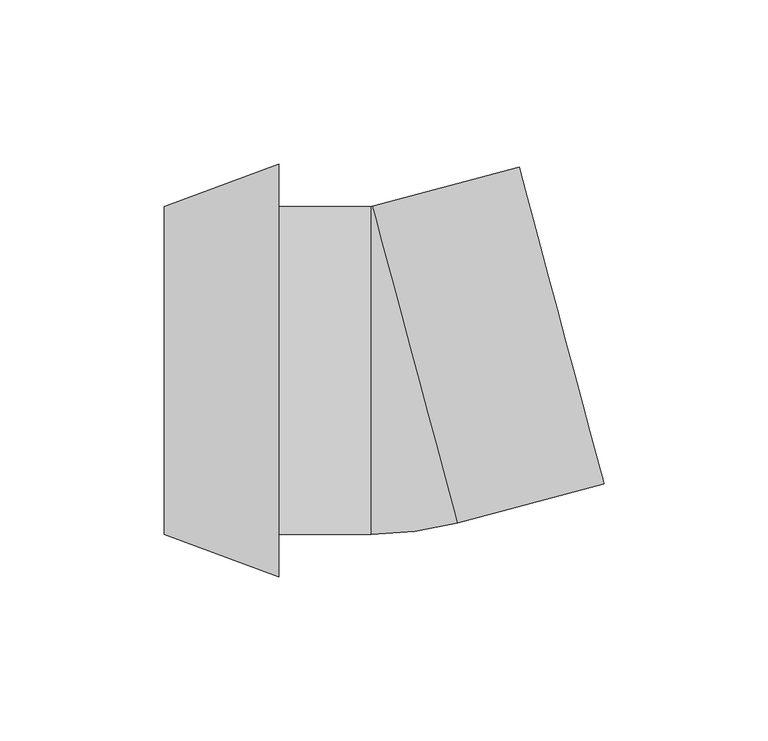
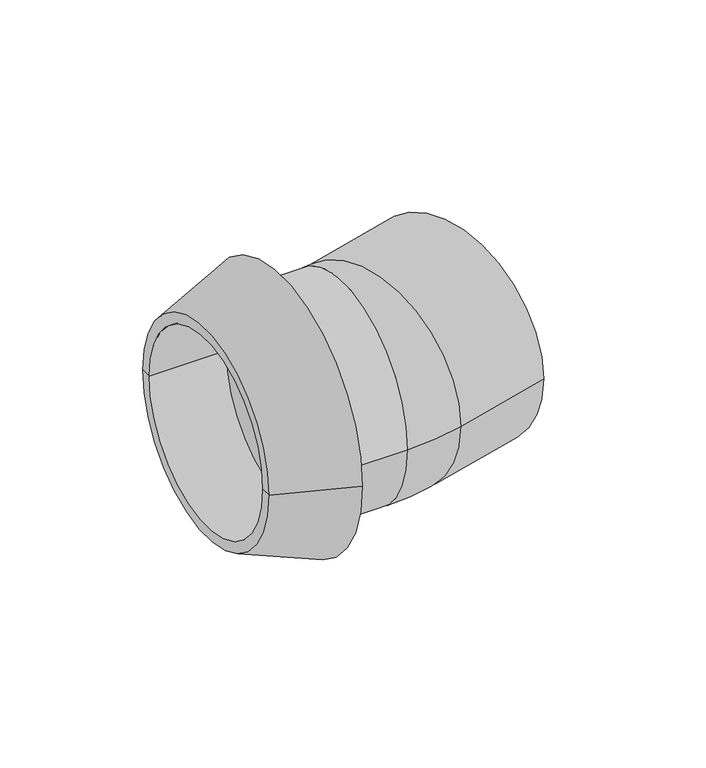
"""IFC4 building model written with IfcOpenShell, lengths in millimetres: duct fitting geometry, NLRS_57_DUF_Easysafe_bocht_M&G : DN100 / 15°."""

from ifc_helpers import new_model, si_unit, point, frame, origin, place, context, project, spatial, polyline, circle_curve, ellipse_curve, trimmed, source, transform, mapped, element, save
from ifc_brep_helpers import plane_surface, cylinder_surface, revolved_surface, advanced_brep


def duct_fitting_9fb83e1a(model_context):
    return source(origin(), model_context, "Body", "AdvancedBrep", [
        advanced_brep(
        [(-35.0, 45.0, 0.0), (-35.0, -45.0, 0.0), (-35.0, -63.0, 0.0), (-35.0, 63.0, 0.0), (-70.0, -50.0, 0.0), (-70.0, 50.0, 0.0), (-70.0, 45.0, 0.0), (-70.0, -45.0, 0.0)],
        [
            (0, 1, circle_curve(frame((-35.0, 0.0, 0.0), z_axis=(-1.0, 0.0, 0.0), x_axis=(0.0, -1.0, 0.0)), 45.0)),
            (1, 2),
            (2, 3, circle_curve(frame((-35.0, 0.0, 0.0), z_axis=(1.0, 0.0, 0.0), x_axis=(0.0, -1.0, 0.0)), 63.0)),
            (3, 0),
            (1, 0, circle_curve(frame((-35.0, 0.0, 0.0), z_axis=(-1.0, 0.0, 0.0), x_axis=(0.0, -1.0, 0.0)), 45.0)),
            (3, 2, circle_curve(frame((-35.0, 0.0, 0.0), z_axis=(1.0, 0.0, 0.0), x_axis=(0.0, -1.0, 0.0)), 63.0)),
            (2, 4, circle_curve(frame((16.8332848, 130.1665359, 0.0), z_axis=(0.0, 0.0, -1.0), x_axis=(0.0, 1.0, 0.0)), 200.0)),
            (4, 5, circle_curve(frame((-70.0, 0.0, 0.0), z_axis=(1.0, 0.0, 0.0), x_axis=(0.0, -1.0, 0.0)), 50.0)),
            (5, 3, circle_curve(frame((16.8332848, -130.1665359, 0.0), z_axis=(0.0, 0.0, -1.0), x_axis=(0.0, -1.0, 0.0)), 200.0)),
            (5, 4, circle_curve(frame((-70.0, 0.0, 0.0), z_axis=(1.0, 0.0, 0.0), x_axis=(0.0, -1.0, 0.0)), 50.0)),
            (6, 7, circle_curve(frame((-70.0, 0.0, 0.0), z_axis=(-1.0, 0.0, 0.0), x_axis=(0.0, -1.0, 0.0)), 45.0)),
            (7, 1),
            (0, 6),
            (7, 6, circle_curve(frame((-70.0, 0.0, 0.0), z_axis=(-1.0, 0.0, 0.0), x_axis=(0.0, -1.0, 0.0)), 45.0)),
            (4, 7),
            (6, 5),
        ],
        [
            plane_surface(frame((-35.0, 0.0, 0.0), z_axis=(1.0, 0.0, 0.0), x_axis=(0.0, -1.0, 0.0))),
            revolved_surface(trimmed(ellipse_curve(frame((16.8332848, 130.1665359, 0.0), z_axis=(0.0, 0.0, 1.0), x_axis=(0.0, 1.0, 0.0)), 200.0, 200.0), [point((-70.0, -50.0, 0.0))], [point((-35.0, -63.0, 0.0))], True, "CARTESIAN"), (-31.7041329, 0.0, 0.0), (1.0, 0.0, 0.0)),
            revolved_surface(polyline([(-35.0, -45.0, 0.0), (-70.0, -45.0, 0.0)]), (-31.7041329, 0.0, 0.0), (1.0, 0.0, 0.0)),
            plane_surface(frame((-70.0, 0.0, 0.0), z_axis=(-1.0, 0.0, 0.0), x_axis=(0.0, -1.0, 0.0))),
        ],
        [
            (0, [[1, 2, 3, 4]]),
            (0, [[5, -4, 6, -2]]),
            (1, [[-3, 7, 8, 9]]),
            (1, [[-6, -9, 10, -7]]),
            (2, [[11, 12, -1, 13]]),
            (2, [[14, -13, -5, -12]]),
            (3, [[-8, 15, -11, 16]]),
            (3, [[-10, -16, -14, -15]]),
        ],
    ),
        advanced_brep(
        [(38.2531165, 62.0137007, 0.0), (64.135021, -34.5788819, 0.0), (-6.3282918, 50.0681483, 0.0), (19.5536127, -46.5244343, 0.0), (-6.8459299, -50.0, 0.0), (-6.8459299, 50.0, 0.0), (-35.0, 50.0, 0.0), (-35.0, -50.0, 0.0)],
        [
            (0, 1, circle_curve(frame((51.1940688, 13.7174094, 0.0), z_axis=(0.9659258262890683, 0.25881904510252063, 0.0), x_axis=(0.25881904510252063, -0.9659258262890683, 0.0)), 50.0)),
            (1, 0, circle_curve(frame((51.1940688, 13.7174094, 0.0), z_axis=(0.9659258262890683, 0.25881904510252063, 0.0), x_axis=(0.25881904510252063, -0.9659258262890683, 0.0)), 50.0)),
            (0, 2),
            (2, 3, circle_curve(frame((6.6126605, 1.771857, 0.0), z_axis=(0.9659258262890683, 0.25881904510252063, 0.0), x_axis=(0.25881904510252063, -0.9659258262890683, 0.0)), 50.0)),
            (3, 1),
            (3, 2, circle_curve(frame((6.6126605, 1.771857, 0.0), z_axis=(0.9659258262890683, 0.25881904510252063, 0.0), x_axis=(0.25881904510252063, -0.9659258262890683, 0.0)), 50.0)),
            (4, 3, circle_curve(frame((-6.8459299, 52.0, 0.0), z_axis=(0.0, 0.0, 1.0), x_axis=(0.2588190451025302, -0.9659258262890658, 0.0)), 102.0)),
            (2, 5, circle_curve(frame((-6.8459299, 52.0, 0.0), z_axis=(0.0, 0.0, -1.0), x_axis=(0.2588190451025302, -0.9659258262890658, 0.0)), 2.0)),
            (5, 4, circle_curve(frame((-6.8459299, 0.0, 0.0), z_axis=(1.0, 0.0, 0.0), x_axis=(0.0, -1.0, 0.0)), 50.0)),
            (4, 5, circle_curve(frame((-6.8459299, 0.0, 0.0), z_axis=(1.0, 0.0, 0.0), x_axis=(0.0, -1.0, 0.0)), 50.0)),
            (6, 7, circle_curve(frame((-35.0, 0.0, 0.0), z_axis=(-1.0, 0.0, 0.0), x_axis=(0.0, -1.0, 0.0)), 50.0)),
            (7, 6, circle_curve(frame((-35.0, 0.0, 0.0), z_axis=(-1.0, 0.0, 0.0), x_axis=(0.0, -1.0, 0.0)), 50.0)),
            (5, 6),
            (7, 4),
        ],
        [
            plane_surface(frame((51.1940688, 13.7174094, 0.0), z_axis=(0.9659258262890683, 0.25881904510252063, 0.0), x_axis=(0.0, 0.0, 1.0))),
            cylinder_surface(frame((51.1940688, 13.7174094, 0.0), z_axis=(0.9659258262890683, 0.25881904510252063, 0.0), x_axis=(0.25881904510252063, -0.9659258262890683, 0.0)), 50.0),
            revolved_surface(trimmed(ellipse_curve(frame((6.6126605, 1.771857, 0.0), z_axis=(0.9659258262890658, 0.2588190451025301, 0.0), x_axis=(0.2588190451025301, -0.9659258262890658, 0.0)), 50.0, 50.0), [point((-6.3282918, 50.0681483, 0.0))], [point((19.5536127, -46.5244343, 0.0))], True, "CARTESIAN"), (-6.8459299, 52.0, 0.0), (0.0, 0.0, -1.0)),
            revolved_surface(trimmed(ellipse_curve(frame((6.6126605, 1.771857, 0.0), z_axis=(0.9659258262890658, 0.2588190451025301, 0.0), x_axis=(0.2588190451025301, -0.9659258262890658, 0.0)), 50.0, 50.0), [point((19.5536127, -46.5244343, 0.0))], [point((-6.3282918, 50.0681483, 0.0))], True, "CARTESIAN"), (-6.8459299, 52.0, 0.0), (0.0, 0.0, -1.0)),
            plane_surface(frame((-35.0, 0.0, 0.0), z_axis=(-1.0, 0.0, 0.0), x_axis=(0.0, 0.0, 1.0))),
            cylinder_surface(frame((-6.8459299, 0.0, 0.0), z_axis=(1.0, 0.0, 0.0), x_axis=(0.0, -1.0, 0.0)), 50.0),
        ],
        [
            (0, [[1, 2]]),
            (1, [[-1, 3, 4, 5]]),
            (1, [[-2, -5, 6, -3]]),
            (2, [[7, -4, 8, 9]]),
            (3, [[-8, -6, -7, 10]]),
            (4, [[11, 12]]),
            (5, [[-9, 13, -12, 14]]),
            (5, [[-10, -14, -11, -13]]),
        ],
    ),
    ])


if __name__ == "__main__":
    model = new_model("IFC4")
    model_context = context("Model", 3, world=origin())
    ifc_project = project(units=[si_unit("LENGTHUNIT", "METRE", prefix="MILLI")], contexts=[model_context])
    site = spatial("IfcSite", under=ifc_project)
    building = spatial("IfcBuilding", under=site)
    placement = place(None, origin())
    duct_fitting_shape = duct_fitting_9fb83e1a(model_context)
    element("IfcDuctFitting", 1, ObjectType="NLRS_57_DUF_Easysafe_bocht_M&G : DN100 / 15°", at=placement, inside=building, context=model_context, shape_type="MappedRepresentation", body=[
        mapped(duct_fitting_shape, transform((0.0, 0.0, 0.0), x_axis=(1.0, 0.0, 0.0), y_axis=(0.0, 1.0, 0.0), z_axis=(0.0, 0.0, 1.0))),
    ])
    save(model, "model.ifc")
